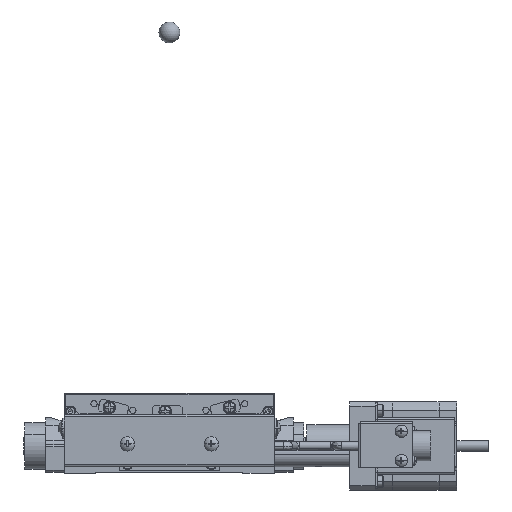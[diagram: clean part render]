
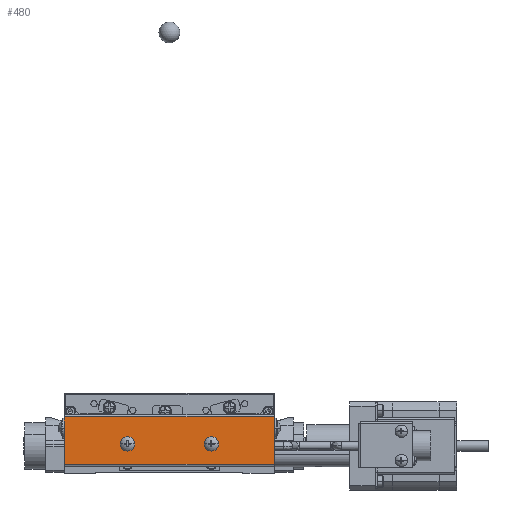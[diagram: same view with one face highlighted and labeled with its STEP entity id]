
A CAD part, front view. The second image highlights one B-rep face of the part: STEP entity #480.
In plain terms, the highlighted planar face has unit normal (0, -1, 0).
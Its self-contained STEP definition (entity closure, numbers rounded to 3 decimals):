
#480=ADVANCED_FACE('',(#6108,#6109,#6110),#6107,.T.);
#6107=PLANE('',#31141);
#6108=FACE_OUTER_BOUND('',#31142,.T.);
#6109=FACE_BOUND('',#31143,.T.);
#6110=FACE_BOUND('',#31144,.T.);
#31138=CARTESIAN_POINT('',(-60.,-67.2,1.94));
#31139=DIRECTION('',(0.,-1.,0.));
#31140=DIRECTION('',(1.,0.,0.));
#31141=AXIS2_PLACEMENT_3D('',#31138,#31139,#31140);
#31142=EDGE_LOOP('',(#46979,#46980,#46981,#46982));
#31143=EDGE_LOOP('',(#46983,#46984));
#31144=EDGE_LOOP('',(#46985,#46986));
#46979=ORIENTED_EDGE('',*,*,#59498,.F.);
#46980=ORIENTED_EDGE('',*,*,#59485,.T.);
#46981=ORIENTED_EDGE('',*,*,#59499,.T.);
#46982=ORIENTED_EDGE('',*,*,#59491,.T.);
#46983=ORIENTED_EDGE('',*,*,#59500,.F.);
#46984=ORIENTED_EDGE('',*,*,#59501,.F.);
#46985=ORIENTED_EDGE('',*,*,#59502,.T.);
#46986=ORIENTED_EDGE('',*,*,#59503,.T.);
#59485=EDGE_CURVE('',#72333,#72325,#72334,.T.);
#59491=EDGE_CURVE('',#72354,#72368,#72375,.T.);
#59498=EDGE_CURVE('',#72333,#72368,#72421,.T.);
#59499=EDGE_CURVE('',#72325,#72354,#72427,.T.);
#59500=EDGE_CURVE('',#72433,#72434,#72435,.T.);
#59501=EDGE_CURVE('',#72434,#72433,#72441,.T.);
#59502=EDGE_CURVE('',#72447,#72448,#72449,.T.);
#59503=EDGE_CURVE('',#72448,#72447,#72455,.T.);
#72325=VERTEX_POINT('',#113510);
#72333=VERTEX_POINT('',#113516);
#72334=LINE('',#113517,#113518);
#72354=VERTEX_POINT('',#113529);
#72368=VERTEX_POINT('',#113538);
#72375=LINE('',#113543,#113544);
#72421=LINE('',#113568,#113569);
#72427=LINE('',#113571,#113572);
#72433=VERTEX_POINT('',#113574);
#72434=VERTEX_POINT('',#113575);
#72435=CIRCLE('',#113579,3.45);
#72441=CIRCLE('',#113583,3.45);
#72447=VERTEX_POINT('',#113584);
#72448=VERTEX_POINT('',#113585);
#72449=CIRCLE('',#113589,3.45);
#72455=CIRCLE('',#113593,3.45);
#113510=CARTESIAN_POINT('',(-50.,-67.2,26.8));
#113516=CARTESIAN_POINT('',(50.,-67.2,26.8));
#113517=CARTESIAN_POINT('',(50.,-67.2,26.8));
#113518=VECTOR('',#113519,100.);
#113519=DIRECTION('',(-1.,0.,0.));
#113529=CARTESIAN_POINT('',(-50.,-67.2,4.2));
#113538=CARTESIAN_POINT('',(50.,-67.2,4.2));
#113543=CARTESIAN_POINT('',(-50.,-67.2,4.2));
#113544=VECTOR('',#113545,100.);
#113545=DIRECTION('',(1.,0.,0.));
#113568=CARTESIAN_POINT('',(50.,-67.2,26.8));
#113569=VECTOR('',#113570,22.6);
#113570=DIRECTION('',(0.,0.,-1.));
#113571=CARTESIAN_POINT('',(-50.,-67.2,26.8));
#113572=VECTOR('',#113573,22.6);
#113573=DIRECTION('',(0.,0.,-1.));
#113574=CARTESIAN_POINT('',(23.45,-67.2,14.));
#113575=CARTESIAN_POINT('',(16.55,-67.2,14.));
#113576=CARTESIAN_POINT('',(20.,-67.2,14.));
#113577=DIRECTION('',(0.,-1.,0.));
#113578=DIRECTION('',(-1.,0.,0.));
#113579=AXIS2_PLACEMENT_3D('',#113576,#113577,#113578);
#113580=CARTESIAN_POINT('',(20.,-67.2,14.));
#113581=DIRECTION('',(0.,-1.,0.));
#113582=DIRECTION('',(-1.,0.,0.));
#113583=AXIS2_PLACEMENT_3D('',#113580,#113581,#113582);
#113584=CARTESIAN_POINT('',(-16.55,-67.2,14.));
#113585=CARTESIAN_POINT('',(-23.45,-67.2,14.));
#113586=CARTESIAN_POINT('',(-20.,-67.2,14.));
#113587=DIRECTION('',(0.,1.,0.));
#113588=DIRECTION('',(1.,0.,0.));
#113589=AXIS2_PLACEMENT_3D('',#113586,#113587,#113588);
#113590=CARTESIAN_POINT('',(-20.,-67.2,14.));
#113591=DIRECTION('',(0.,1.,0.));
#113592=DIRECTION('',(1.,0.,0.));
#113593=AXIS2_PLACEMENT_3D('',#113590,#113591,#113592);
